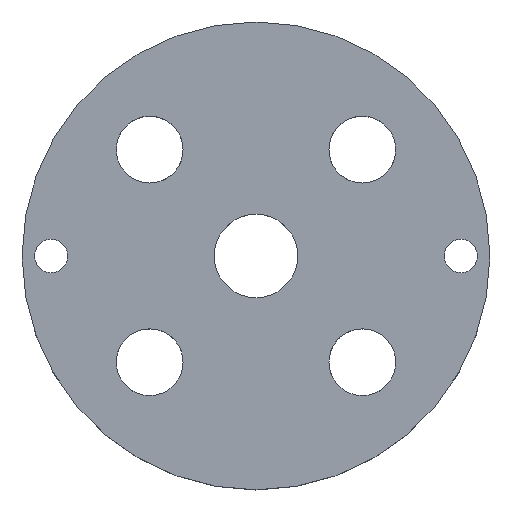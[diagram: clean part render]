
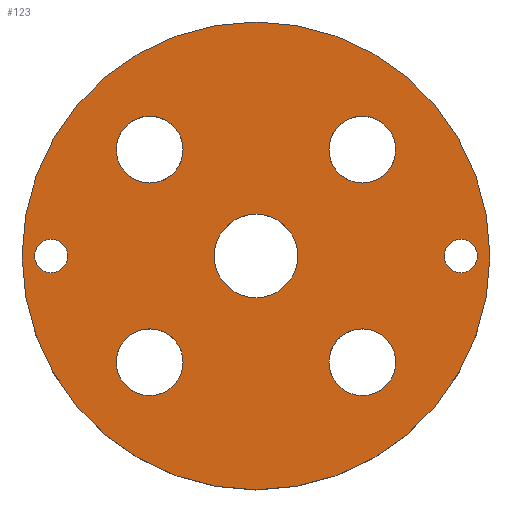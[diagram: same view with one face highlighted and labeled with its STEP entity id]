
A CAD part, top view. The second image highlights one B-rep face of the part: STEP entity #123.
In plain terms, the highlighted planar face has unit normal (0, 0, 1).
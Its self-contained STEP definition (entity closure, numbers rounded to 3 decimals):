
#30=CARTESIAN_POINT('',(-3.751,0.,0.));
#31=DIRECTION('',(1.,0.,0.));
#32=DIRECTION('',(0.,0.,1.));
#33=AXIS2_PLACEMENT_3D('',#30,#32,#31);
#34=PLANE('',#33);
#35=CARTESIAN_POINT('',(14.,0.,0.));
#36=VERTEX_POINT('',#35);
#37=CARTESIAN_POINT('',(0.,0.,0.));
#38=DIRECTION('',(1.,-0.,-0.));
#39=DIRECTION('',(0.,-0.,1.));
#40=AXIS2_PLACEMENT_3D('',#37,#39,#38);
#41=CIRCLE('',#40,14.);
#42=EDGE_CURVE('',#36,#36,#41,.T.);
#43=ORIENTED_EDGE('E1',*,*,#42,.T.);
#44=EDGE_LOOP('',(#43));
#45=FACE_OUTER_BOUND('',#44,.T.);
#46=CARTESIAN_POINT('',(8.364,-6.364,0.));
#47=VERTEX_POINT('',#46);
#48=CARTESIAN_POINT('',(6.364,-6.364,0.));
#49=DIRECTION('',(1.,0.,-0.));
#50=DIRECTION('',(0.,0.,-1.));
#51=AXIS2_PLACEMENT_3D('',#48,#50,#49);
#52=CIRCLE('',#51,2.);
#53=EDGE_CURVE('',#47,#47,#52,.T.);
#54=ORIENTED_EDGE('E4',*,*,#53,.T.);
#55=EDGE_LOOP('',(#54));
#56=FACE_BOUND('',#55,.T.);
#57=CARTESIAN_POINT('',(-4.364,6.364,0.));
#58=VERTEX_POINT('',#57);
#59=CARTESIAN_POINT('',(-6.364,6.364,0.));
#60=DIRECTION('',(1.,0.,-0.));
#61=DIRECTION('',(0.,0.,-1.));
#62=AXIS2_PLACEMENT_3D('',#59,#61,#60);
#63=CIRCLE('',#62,2.);
#64=EDGE_CURVE('',#58,#58,#63,.T.);
#65=ORIENTED_EDGE('E7',*,*,#64,.T.);
#66=EDGE_LOOP('',(#65));
#67=FACE_BOUND('',#66,.T.);
#68=CARTESIAN_POINT('',(13.259,0.,0.));
#69=VERTEX_POINT('',#68);
#70=CARTESIAN_POINT('',(12.259,0.,0.));
#71=DIRECTION('',(1.,0.,-0.));
#72=DIRECTION('',(0.,-0.,-1.));
#73=AXIS2_PLACEMENT_3D('',#70,#72,#71);
#74=CIRCLE('',#73,1.);
#75=EDGE_CURVE('',#69,#69,#74,.T.);
#76=ORIENTED_EDGE('E10',*,*,#75,.T.);
#77=EDGE_LOOP('',(#76));
#78=FACE_BOUND('',#77,.T.);
#79=CARTESIAN_POINT('',(2.5,0.,0.));
#80=VERTEX_POINT('',#79);
#81=CARTESIAN_POINT('',(0.,0.,0.));
#82=DIRECTION('',(1.,0.,-0.));
#83=DIRECTION('',(0.,0.,-1.));
#84=AXIS2_PLACEMENT_3D('',#81,#83,#82);
#85=CIRCLE('',#84,2.5);
#86=EDGE_CURVE('',#80,#80,#85,.T.);
#87=ORIENTED_EDGE('E13',*,*,#86,.T.);
#88=EDGE_LOOP('',(#87));
#89=FACE_BOUND('',#88,.T.);
#90=CARTESIAN_POINT('',(-11.259,0.,0.));
#91=VERTEX_POINT('',#90);
#92=CARTESIAN_POINT('',(-12.259,0.,0.));
#93=DIRECTION('',(1.,0.,-0.));
#94=DIRECTION('',(0.,0.,-1.));
#95=AXIS2_PLACEMENT_3D('',#92,#94,#93);
#96=CIRCLE('',#95,1.);
#97=EDGE_CURVE('',#91,#91,#96,.T.);
#98=ORIENTED_EDGE('E16',*,*,#97,.T.);
#99=EDGE_LOOP('',(#98));
#100=FACE_BOUND('',#99,.T.);
#101=CARTESIAN_POINT('',(8.364,6.364,0.));
#102=VERTEX_POINT('',#101);
#103=CARTESIAN_POINT('',(6.364,6.364,0.));
#104=DIRECTION('',(1.,0.,-0.));
#105=DIRECTION('',(0.,0.,-1.));
#106=AXIS2_PLACEMENT_3D('',#103,#105,#104);
#107=CIRCLE('',#106,2.);
#108=EDGE_CURVE('',#102,#102,#107,.T.);
#109=ORIENTED_EDGE('E19',*,*,#108,.T.);
#110=EDGE_LOOP('',(#109));
#111=FACE_BOUND('',#110,.T.);
#112=CARTESIAN_POINT('',(-4.364,-6.364,0.));
#113=VERTEX_POINT('',#112);
#114=CARTESIAN_POINT('',(-6.364,-6.364,0.));
#115=DIRECTION('',(1.,0.,-0.));
#116=DIRECTION('',(0.,0.,-1.));
#117=AXIS2_PLACEMENT_3D('',#114,#116,#115);
#118=CIRCLE('',#117,2.);
#119=EDGE_CURVE('',#113,#113,#118,.T.);
#120=ORIENTED_EDGE('E22',*,*,#119,.T.);
#121=EDGE_LOOP('',(#120));
#122=FACE_BOUND('',#121,.T.);
#123=ADVANCED_FACE('F1',(#45,#56,#67,#78,#89,#100,#111,#122),#34,.T.);
